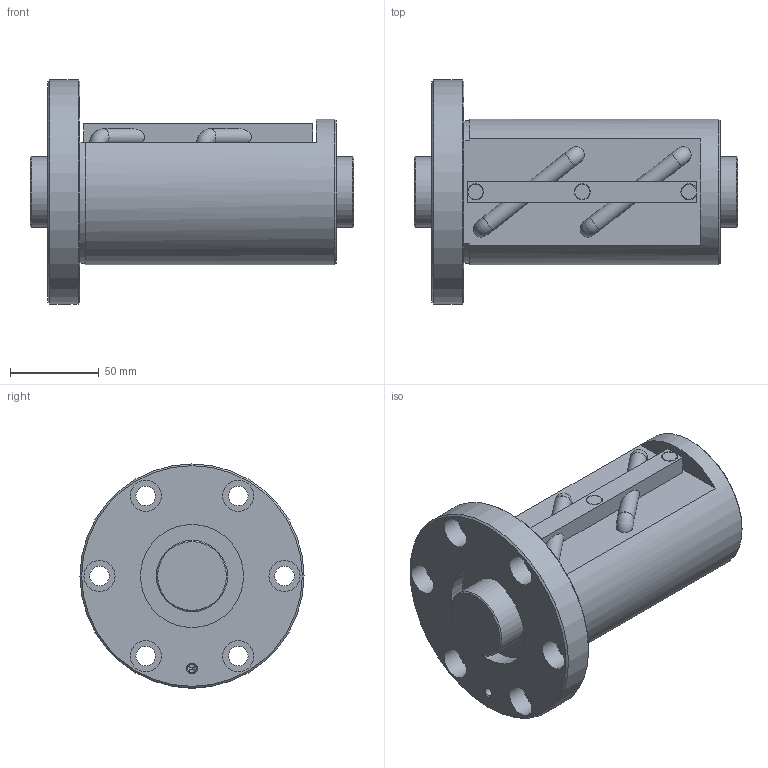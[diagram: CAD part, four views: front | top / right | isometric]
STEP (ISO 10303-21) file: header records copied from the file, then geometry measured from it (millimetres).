
FILE_DESCRIPTION(/* description */ ('STEP AP203'),/* implementation_level */ '2;1');
FILE_NAME(/* name */ 'BNF4020V-5RRG1+182LC0_000_rev',/* time_stamp */ '2024-08-06T08:41:31+02:00',/* author */ ('License CC BY-ND 4.0'),/* organization */ ('CADENAS'),/* preprocessor_version */ 'ST-DEVELOPER v19.3',/* originating_system */ 'PARTsolutions',/* authorisation */ ' ');
FILE_SCHEMA (('CONFIG_CONTROL_DESIGN'));
Length unit declared in the file: millimetre
Products named in the file (3): BNF4020V-5RRG1+182LC0_000_rev; BNF 4020V-5RR000 Shaft; BNF 4020V-5RR Nut
Assembly tree (2 placements, depth 2):
  BNF4020V-5RRG1+182LC0_000_rev
    BNF 4020V-5RR000 Shaft
    BNF 4020V-5RR Nut
Bounding box: 182 x 126 x 126 mm (x, y, z)
Volume: 915311.4 mm3; surface area: 122413.3 mm2
Topology: 2 solids, 2 shells, 85 faces, 193 edges, 124 vertices
Faces by surface type: plane 41, cylinder 33, cone 7, torus 4
Full cylindrical faces by diameter (mm): 4 x3, 4.917 x1, 8.5 x3, 9.1 x1, 11 x6, 17.5 x6, 40 x2, 58 x2, 82 x1, 126 x1
Entity records: 2359 total; most frequent: CARTESIAN_POINT 479, DIRECTION 404, ORIENTED_EDGE 296, AXIS2_PLACEMENT_3D 178, FACE_BOUND 149, EDGE_CURVE 148, EDGE_LOOP 148, VERTEX_POINT 115
